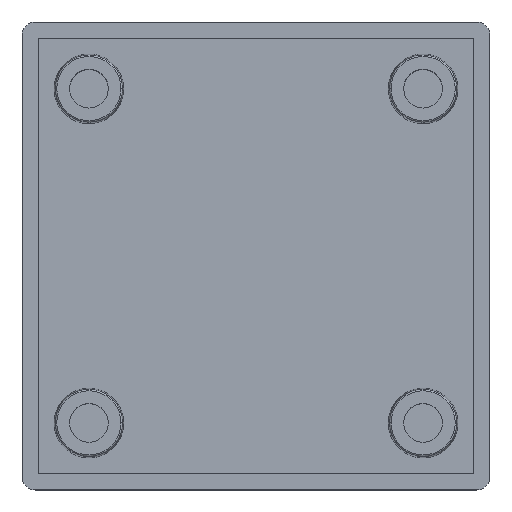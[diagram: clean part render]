
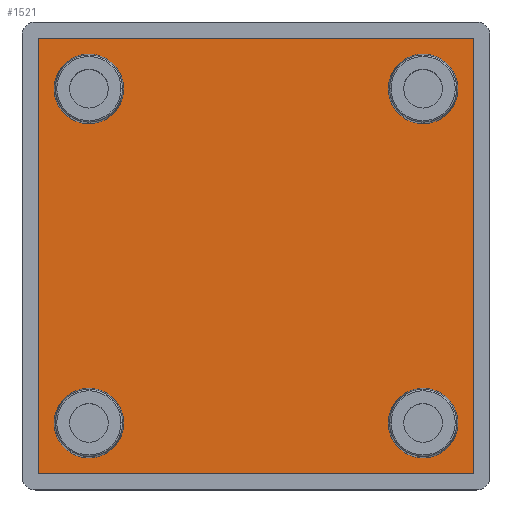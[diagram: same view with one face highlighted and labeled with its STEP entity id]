
A CAD part, top view. The second image highlights one B-rep face of the part: STEP entity #1521.
In plain terms, the highlighted planar face has unit normal (0, 0, 1).
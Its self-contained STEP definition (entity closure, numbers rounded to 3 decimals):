
#10 = AXIS2_PLACEMENT_3D ( 'NONE', #967, #1367, #1008 ) ;
#18 = CARTESIAN_POINT ( 'NONE',  ( 12.5, 12.5, 2. ) ) ;
#19 = DIRECTION ( 'NONE',  ( 0., -1., 0. ) ) ;
#35 = DIRECTION ( 'NONE',  ( 0., 0., 1. ) ) ;
#42 = DIRECTION ( 'NONE',  ( 0., 0., -1. ) ) ;
#63 = DIRECTION ( 'NONE',  ( -1., 0., 0. ) ) ;
#102 = AXIS2_PLACEMENT_3D ( 'NONE', #1147, #1043, #1436 ) ;
#105 = CARTESIAN_POINT ( 'NONE',  ( -12.5, -12.5, 2. ) ) ;
#132 = DIRECTION ( 'NONE',  ( -1., 0., 0. ) ) ;
#135 = CIRCLE ( 'NONE', #488, 2.6 ) ;
#143 = CARTESIAN_POINT ( 'NONE',  ( -15.1, 12.5, 2. ) ) ;
#149 = VERTEX_POINT ( 'NONE', #392 ) ;
#151 = VERTEX_POINT ( 'NONE', #247 ) ;
#156 = DIRECTION ( 'NONE',  ( -1., 0., 0. ) ) ;
#163 = EDGE_LOOP ( 'NONE', ( #1495, #664, #954, #1430 ) ) ;
#188 = VERTEX_POINT ( 'NONE', #499 ) ;
#247 = CARTESIAN_POINT ( 'NONE',  ( -9.9, 12.5, 2. ) ) ;
#270 = EDGE_CURVE ( 'NONE', #603, #367, #950, .T. ) ;
#275 = AXIS2_PLACEMENT_3D ( 'NONE', #1475, #1369, #1227 ) ;
#282 = CARTESIAN_POINT ( 'NONE',  ( 12.5, -12.5, 2. ) ) ;
#305 = CARTESIAN_POINT ( 'NONE',  ( 16.3, 16.3, 2. ) ) ;
#309 = AXIS2_PLACEMENT_3D ( 'NONE', #18, #568, #319 ) ;
#314 = CIRCLE ( 'NONE', #309, 2.6 ) ;
#319 = DIRECTION ( 'NONE',  ( -1., 0., 0. ) ) ;
#333 = FACE_BOUND ( 'NONE', #1002, .T. ) ;
#367 = VERTEX_POINT ( 'NONE', #1575 ) ;
#392 = CARTESIAN_POINT ( 'NONE',  ( 15.1, 12.5, 2. ) ) ;
#416 = AXIS2_PLACEMENT_3D ( 'NONE', #105, #569, #1423 ) ;
#446 = VERTEX_POINT ( 'NONE', #510 ) ;
#455 = VERTEX_POINT ( 'NONE', #683 ) ;
#465 = ORIENTED_EDGE ( 'NONE', *, *, #1620, .F. ) ;
#475 = ORIENTED_EDGE ( 'NONE', *, *, #270, .F. ) ;
#477 = FACE_BOUND ( 'NONE', #609, .T. ) ;
#479 = CARTESIAN_POINT ( 'NONE',  ( 16.3, -16.3, 2. ) ) ;
#484 = EDGE_CURVE ( 'NONE', #1255, #731, #996, .T. ) ;
#485 = ORIENTED_EDGE ( 'NONE', *, *, #1015, .F. ) ;
#488 = AXIS2_PLACEMENT_3D ( 'NONE', #615, #35, #156 ) ;
#495 = CARTESIAN_POINT ( 'NONE',  ( -16.3, -16.3, 2. ) ) ;
#499 = CARTESIAN_POINT ( 'NONE',  ( -16.3, -16.3, 2. ) ) ;
#502 = VERTEX_POINT ( 'NONE', #952 ) ;
#510 = CARTESIAN_POINT ( 'NONE',  ( 9.9, 12.5, 2. ) ) ;
#511 = VECTOR ( 'NONE', #19, 1000. ) ;
#541 = EDGE_CURVE ( 'NONE', #502, #455, #1431, .T. ) ;
#567 = EDGE_CURVE ( 'NONE', #731, #188, #923, .T. ) ;
#568 = DIRECTION ( 'NONE',  ( 0., 0., 1. ) ) ;
#569 = DIRECTION ( 'NONE',  ( 0., 0., 1. ) ) ;
#603 = VERTEX_POINT ( 'NONE', #672 ) ;
#609 = EDGE_LOOP ( 'NONE', ( #485, #893 ) ) ;
#615 = CARTESIAN_POINT ( 'NONE',  ( -12.5, 12.5, 2. ) ) ;
#620 = CARTESIAN_POINT ( 'NONE',  ( -16.3, -16.3, 2. ) ) ;
#662 = CARTESIAN_POINT ( 'NONE',  ( -16.3, 16.3, 2. ) ) ;
#664 = ORIENTED_EDGE ( 'NONE', *, *, #484, .T. ) ;
#667 = VECTOR ( 'NONE', #1159, 1000. ) ;
#672 = CARTESIAN_POINT ( 'NONE',  ( 15.1, -12.5, 2. ) ) ;
#677 = CARTESIAN_POINT ( 'NONE',  ( 16.3, -16.3, 2. ) ) ;
#683 = CARTESIAN_POINT ( 'NONE',  ( -15.1, -12.5, 2. ) ) ;
#698 = VERTEX_POINT ( 'NONE', #677 ) ;
#706 = AXIS2_PLACEMENT_3D ( 'NONE', #282, #1072, #132 ) ;
#714 = ORIENTED_EDGE ( 'NONE', *, *, #965, .F. ) ;
#725 = PLANE ( 'NONE',  #748 ) ;
#731 = VERTEX_POINT ( 'NONE', #933 ) ;
#733 = ORIENTED_EDGE ( 'NONE', *, *, #1251, .F. ) ;
#747 = ORIENTED_EDGE ( 'NONE', *, *, #541, .F. ) ;
#748 = AXIS2_PLACEMENT_3D ( 'NONE', #1510, #42, #63 ) ;
#770 = VECTOR ( 'NONE', #1707, 1000. ) ;
#800 = DIRECTION ( 'NONE',  ( -1., 0., 0. ) ) ;
#835 = EDGE_LOOP ( 'NONE', ( #714, #747 ) ) ;
#857 = EDGE_LOOP ( 'NONE', ( #465, #475 ) ) ;
#893 = ORIENTED_EDGE ( 'NONE', *, *, #1608, .F. ) ;
#917 = FACE_OUTER_BOUND ( 'NONE', #163, .T. ) ;
#923 = LINE ( 'NONE', #620, #511 ) ;
#933 = CARTESIAN_POINT ( 'NONE',  ( -16.3, 16.3, 2. ) ) ;
#950 = CIRCLE ( 'NONE', #706, 2.6 ) ;
#952 = CARTESIAN_POINT ( 'NONE',  ( -9.9, -12.5, 2. ) ) ;
#954 = ORIENTED_EDGE ( 'NONE', *, *, #567, .T. ) ;
#958 = ORIENTED_EDGE ( 'NONE', *, *, #1584, .F. ) ;
#965 = EDGE_CURVE ( 'NONE', #455, #502, #1109, .T. ) ;
#967 = CARTESIAN_POINT ( 'NONE',  ( 12.5, 12.5, 2. ) ) ;
#996 = LINE ( 'NONE', #662, #1499 ) ;
#1002 = EDGE_LOOP ( 'NONE', ( #733, #958 ) ) ;
#1008 = DIRECTION ( 'NONE',  ( -1., 0., 0. ) ) ;
#1015 = EDGE_CURVE ( 'NONE', #446, #149, #1626, .T. ) ;
#1043 = DIRECTION ( 'NONE',  ( 0., 0., 1. ) ) ;
#1072 = DIRECTION ( 'NONE',  ( 0., 0., 1. ) ) ;
#1109 = CIRCLE ( 'NONE', #102, 2.6 ) ;
#1147 = CARTESIAN_POINT ( 'NONE',  ( -12.5, -12.5, 2. ) ) ;
#1159 = DIRECTION ( 'NONE',  ( 0., 1., 0. ) ) ;
#1200 = DIRECTION ( 'NONE',  ( 0., 0., 1. ) ) ;
#1227 = DIRECTION ( 'NONE',  ( -1., 0., 0. ) ) ;
#1251 = EDGE_CURVE ( 'NONE', #1277, #151, #1580, .T. ) ;
#1255 = VERTEX_POINT ( 'NONE', #305 ) ;
#1267 = LINE ( 'NONE', #479, #667 ) ;
#1277 = VERTEX_POINT ( 'NONE', #143 ) ;
#1339 = EDGE_CURVE ( 'NONE', #698, #1255, #1267, .T. ) ;
#1367 = DIRECTION ( 'NONE',  ( 0., 0., 1. ) ) ;
#1369 = DIRECTION ( 'NONE',  ( 0., 0., 1. ) ) ;
#1419 = EDGE_CURVE ( 'NONE', #188, #698, #1447, .T. ) ;
#1423 = DIRECTION ( 'NONE',  ( -1., 0., 0. ) ) ;
#1430 = ORIENTED_EDGE ( 'NONE', *, *, #1419, .T. ) ;
#1431 = CIRCLE ( 'NONE', #416, 2.6 ) ;
#1436 = DIRECTION ( 'NONE',  ( -1., 0., 0. ) ) ;
#1447 = LINE ( 'NONE', #495, #770 ) ;
#1458 = AXIS2_PLACEMENT_3D ( 'NONE', #1624, #1200, #1464 ) ;
#1464 = DIRECTION ( 'NONE',  ( -1., 0., 0. ) ) ;
#1475 = CARTESIAN_POINT ( 'NONE',  ( 12.5, -12.5, 2. ) ) ;
#1495 = ORIENTED_EDGE ( 'NONE', *, *, #1339, .T. ) ;
#1499 = VECTOR ( 'NONE', #800, 1000. ) ;
#1510 = CARTESIAN_POINT ( 'NONE',  ( 0., 0., 2. ) ) ;
#1521 = ADVANCED_FACE ( 'NONE', ( #1644, #477, #1679, #333, #917 ), #725, .F. ) ;
#1575 = CARTESIAN_POINT ( 'NONE',  ( 9.9, -12.5, 2. ) ) ;
#1580 = CIRCLE ( 'NONE', #1458, 2.6 ) ;
#1584 = EDGE_CURVE ( 'NONE', #151, #1277, #135, .T. ) ;
#1608 = EDGE_CURVE ( 'NONE', #149, #446, #314, .T. ) ;
#1619 = CIRCLE ( 'NONE', #275, 2.6 ) ;
#1620 = EDGE_CURVE ( 'NONE', #367, #603, #1619, .T. ) ;
#1624 = CARTESIAN_POINT ( 'NONE',  ( -12.5, 12.5, 2. ) ) ;
#1626 = CIRCLE ( 'NONE', #10, 2.6 ) ;
#1644 = FACE_BOUND ( 'NONE', #857, .T. ) ;
#1679 = FACE_BOUND ( 'NONE', #835, .T. ) ;
#1707 = DIRECTION ( 'NONE',  ( 1., 0., 0. ) ) ;
